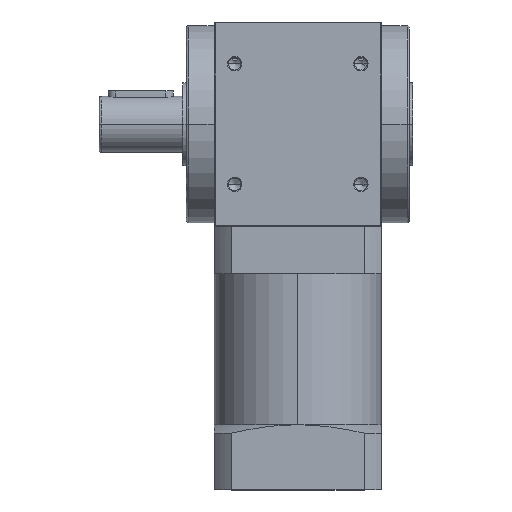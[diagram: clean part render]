
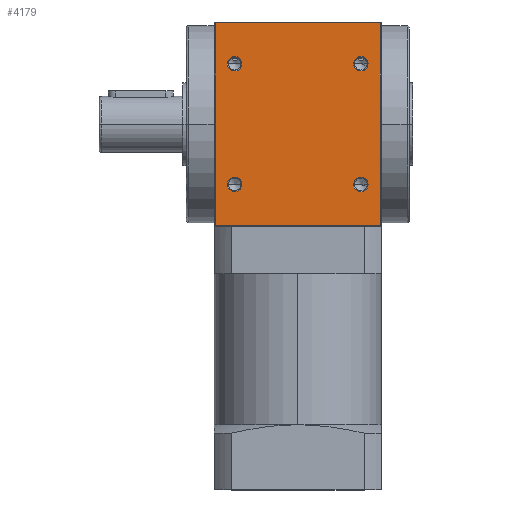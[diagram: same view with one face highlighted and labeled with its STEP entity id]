
A CAD part, top view. The second image highlights one B-rep face of the part: STEP entity #4179.
In plain terms, the highlighted planar face has unit normal (0, 0, 1).
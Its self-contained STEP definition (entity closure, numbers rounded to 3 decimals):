
#20 = AXIS2_PLACEMENT_3D ( 'NONE', #4904, #5963, #2660 ) ;
#45 = EDGE_CURVE ( 'NONE', #485, #115, #5130, .T. ) ;
#64 = LINE ( 'NONE', #4004, #3501 ) ;
#112 = CIRCLE ( 'NONE', #495, 3.9 ) ;
#115 = VERTEX_POINT ( 'NONE', #1780 ) ;
#180 = DIRECTION ( 'NONE',  ( 0., 1., 0. ) ) ;
#193 = VERTEX_POINT ( 'NONE', #2258 ) ;
#265 = EDGE_CURVE ( 'NONE', #193, #7105, #112, .T. ) ;
#277 = CARTESIAN_POINT ( 'NONE',  ( 34., -32.5, 55. ) ) ;
#399 = ORIENTED_EDGE ( 'NONE', *, *, #2539, .T. ) ;
#401 = VECTOR ( 'NONE', #180, 1000. ) ;
#448 = EDGE_LOOP ( 'NONE', ( #3799, #4125 ) ) ;
#485 = VERTEX_POINT ( 'NONE', #3689 ) ;
#495 = AXIS2_PLACEMENT_3D ( 'NONE', #3142, #3119, #2572 ) ;
#545 = DIRECTION ( 'NONE',  ( 0., 0., -1. ) ) ;
#568 = DIRECTION ( 'NONE',  ( 0., 1., 0. ) ) ;
#726 = CARTESIAN_POINT ( 'NONE',  ( 44.5, 55., 55. ) ) ;
#747 = FACE_BOUND ( 'NONE', #5999, .T. ) ;
#885 = ORIENTED_EDGE ( 'NONE', *, *, #265, .T. ) ;
#890 = VERTEX_POINT ( 'NONE', #2533 ) ;
#1080 = EDGE_CURVE ( 'NONE', #7105, #193, #1626, .T. ) ;
#1177 = CARTESIAN_POINT ( 'NONE',  ( -37.9, -32.5, 55. ) ) ;
#1203 = ORIENTED_EDGE ( 'NONE', *, *, #1080, .T. ) ;
#1302 = LINE ( 'NONE', #5694, #4695 ) ;
#1464 = CARTESIAN_POINT ( 'NONE',  ( 37.9, -32.5, 55. ) ) ;
#1603 = EDGE_CURVE ( 'NONE', #6350, #2353, #7056, .T. ) ;
#1611 = DIRECTION ( 'NONE',  ( 0., 1., 0. ) ) ;
#1626 = CIRCLE ( 'NONE', #2371, 3.9 ) ;
#1643 = DIRECTION ( 'NONE',  ( 0., 0., -1. ) ) ;
#1668 = DIRECTION ( 'NONE',  ( 0., 1., 0. ) ) ;
#1780 = CARTESIAN_POINT ( 'NONE',  ( 37.9, 32.5, 55. ) ) ;
#1962 = DIRECTION ( 'NONE',  ( 0., 0., -1. ) ) ;
#1985 = ORIENTED_EDGE ( 'NONE', *, *, #6978, .T. ) ;
#2120 = FACE_OUTER_BOUND ( 'NONE', #3001, .T. ) ;
#2128 = PLANE ( 'NONE',  #20 ) ;
#2258 = CARTESIAN_POINT ( 'NONE',  ( -37.9, 32.5, 55. ) ) ;
#2353 = VERTEX_POINT ( 'NONE', #6177 ) ;
#2371 = AXIS2_PLACEMENT_3D ( 'NONE', #3825, #2649, #1611 ) ;
#2381 = DIRECTION ( 'NONE',  ( -1., 0., 0. ) ) ;
#2533 = CARTESIAN_POINT ( 'NONE',  ( 44.5, 54.5, 55. ) ) ;
#2537 = ORIENTED_EDGE ( 'NONE', *, *, #6293, .T. ) ;
#2539 = EDGE_CURVE ( 'NONE', #3266, #5178, #4033, .T. ) ;
#2572 = DIRECTION ( 'NONE',  ( 0., 1., 0. ) ) ;
#2623 = VECTOR ( 'NONE', #4156, 1000. ) ;
#2649 = DIRECTION ( 'NONE',  ( 0., 0., -1. ) ) ;
#2660 = DIRECTION ( 'NONE',  ( 0., 1., 0. ) ) ;
#2677 = DIRECTION ( 'NONE',  ( 0., 1., 0. ) ) ;
#2825 = CARTESIAN_POINT ( 'NONE',  ( -30.1, 32.5, 55. ) ) ;
#3001 = EDGE_LOOP ( 'NONE', ( #4976, #3447, #3735, #3822 ) ) ;
#3110 = AXIS2_PLACEMENT_3D ( 'NONE', #4416, #1643, #1668 ) ;
#3119 = DIRECTION ( 'NONE',  ( 0., 0., -1. ) ) ;
#3136 = EDGE_LOOP ( 'NONE', ( #4413, #1985 ) ) ;
#3142 = CARTESIAN_POINT ( 'NONE',  ( -34., 32.5, 55. ) ) ;
#3176 = AXIS2_PLACEMENT_3D ( 'NONE', #3259, #4988, #2677 ) ;
#3259 = CARTESIAN_POINT ( 'NONE',  ( 34., -32.5, 55. ) ) ;
#3266 = VERTEX_POINT ( 'NONE', #6756 ) ;
#3400 = FACE_BOUND ( 'NONE', #4825, .T. ) ;
#3446 = CIRCLE ( 'NONE', #3176, 3.9 ) ;
#3447 = ORIENTED_EDGE ( 'NONE', *, *, #5511, .T. ) ;
#3501 = VECTOR ( 'NONE', #5601, 1000. ) ;
#3689 = CARTESIAN_POINT ( 'NONE',  ( 30.1, 32.5, 55. ) ) ;
#3735 = ORIENTED_EDGE ( 'NONE', *, *, #6591, .T. ) ;
#3799 = ORIENTED_EDGE ( 'NONE', *, *, #4371, .T. ) ;
#3822 = ORIENTED_EDGE ( 'NONE', *, *, #4246, .T. ) ;
#3825 = CARTESIAN_POINT ( 'NONE',  ( -34., 32.5, 55. ) ) ;
#3846 = CARTESIAN_POINT ( 'NONE',  ( 34., 32.5, 55. ) ) ;
#4004 = CARTESIAN_POINT ( 'NONE',  ( -44.5, 55., 55. ) ) ;
#4033 = CIRCLE ( 'NONE', #5428, 3.9 ) ;
#4112 = CARTESIAN_POINT ( 'NONE',  ( -34., -32.5, 55. ) ) ;
#4125 = ORIENTED_EDGE ( 'NONE', *, *, #45, .T. ) ;
#4156 = DIRECTION ( 'NONE',  ( 1., 0., 0. ) ) ;
#4179 = ADVANCED_FACE ( 'NONE', ( #747, #4457, #6011, #3400, #2120 ), #2128, .F. ) ;
#4192 = CARTESIAN_POINT ( 'NONE',  ( -34., -32.5, 55. ) ) ;
#4241 = DIRECTION ( 'NONE',  ( 0., 0., -1. ) ) ;
#4246 = EDGE_CURVE ( 'NONE', #5322, #5881, #64, .T. ) ;
#4371 = EDGE_CURVE ( 'NONE', #115, #485, #6090, .T. ) ;
#4413 = ORIENTED_EDGE ( 'NONE', *, *, #1603, .T. ) ;
#4416 = CARTESIAN_POINT ( 'NONE',  ( 34., 32.5, 55. ) ) ;
#4420 = AXIS2_PLACEMENT_3D ( 'NONE', #277, #4241, #6875 ) ;
#4457 = FACE_BOUND ( 'NONE', #3136, .T. ) ;
#4673 = DIRECTION ( 'NONE',  ( 0., 0., -1. ) ) ;
#4695 = VECTOR ( 'NONE', #2381, 1000. ) ;
#4825 = EDGE_LOOP ( 'NONE', ( #1203, #885 ) ) ;
#4904 = CARTESIAN_POINT ( 'NONE',  ( 45., 55., 55. ) ) ;
#4905 = CARTESIAN_POINT ( 'NONE',  ( -44.5, -54.5, 55. ) ) ;
#4976 = ORIENTED_EDGE ( 'NONE', *, *, #6237, .T. ) ;
#4988 = DIRECTION ( 'NONE',  ( 0., 0., -1. ) ) ;
#5130 = CIRCLE ( 'NONE', #3110, 3.9 ) ;
#5178 = VERTEX_POINT ( 'NONE', #1177 ) ;
#5322 = VERTEX_POINT ( 'NONE', #5898 ) ;
#5428 = AXIS2_PLACEMENT_3D ( 'NONE', #4112, #4673, #5772 ) ;
#5511 = EDGE_CURVE ( 'NONE', #6138, #890, #6742, .T. ) ;
#5545 = LINE ( 'NONE', #5810, #2623 ) ;
#5601 = DIRECTION ( 'NONE',  ( 0., -1., 0. ) ) ;
#5694 = CARTESIAN_POINT ( 'NONE',  ( 45., 54.5, 55. ) ) ;
#5716 = CARTESIAN_POINT ( 'NONE',  ( 44.5, -54.5, 55. ) ) ;
#5772 = DIRECTION ( 'NONE',  ( 0., 1., 0. ) ) ;
#5810 = CARTESIAN_POINT ( 'NONE',  ( 45., -54.5, 55. ) ) ;
#5837 = DIRECTION ( 'NONE',  ( 0., 1., 0. ) ) ;
#5881 = VERTEX_POINT ( 'NONE', #4905 ) ;
#5898 = CARTESIAN_POINT ( 'NONE',  ( -44.5, 54.5, 55. ) ) ;
#5958 = AXIS2_PLACEMENT_3D ( 'NONE', #4192, #1962, #5837 ) ;
#5963 = DIRECTION ( 'NONE',  ( 0., 0., -1. ) ) ;
#5999 = EDGE_LOOP ( 'NONE', ( #399, #2537 ) ) ;
#6011 = FACE_BOUND ( 'NONE', #448, .T. ) ;
#6090 = CIRCLE ( 'NONE', #6786, 3.9 ) ;
#6138 = VERTEX_POINT ( 'NONE', #5716 ) ;
#6177 = CARTESIAN_POINT ( 'NONE',  ( 30.1, -32.5, 55. ) ) ;
#6237 = EDGE_CURVE ( 'NONE', #5881, #6138, #5545, .T. ) ;
#6293 = EDGE_CURVE ( 'NONE', #5178, #3266, #6566, .T. ) ;
#6350 = VERTEX_POINT ( 'NONE', #1464 ) ;
#6566 = CIRCLE ( 'NONE', #5958, 3.9 ) ;
#6591 = EDGE_CURVE ( 'NONE', #890, #5322, #1302, .T. ) ;
#6742 = LINE ( 'NONE', #726, #401 ) ;
#6756 = CARTESIAN_POINT ( 'NONE',  ( -30.1, -32.5, 55. ) ) ;
#6786 = AXIS2_PLACEMENT_3D ( 'NONE', #3846, #545, #568 ) ;
#6875 = DIRECTION ( 'NONE',  ( 0., 1., 0. ) ) ;
#6978 = EDGE_CURVE ( 'NONE', #2353, #6350, #3446, .T. ) ;
#7056 = CIRCLE ( 'NONE', #4420, 3.9 ) ;
#7105 = VERTEX_POINT ( 'NONE', #2825 ) ;
